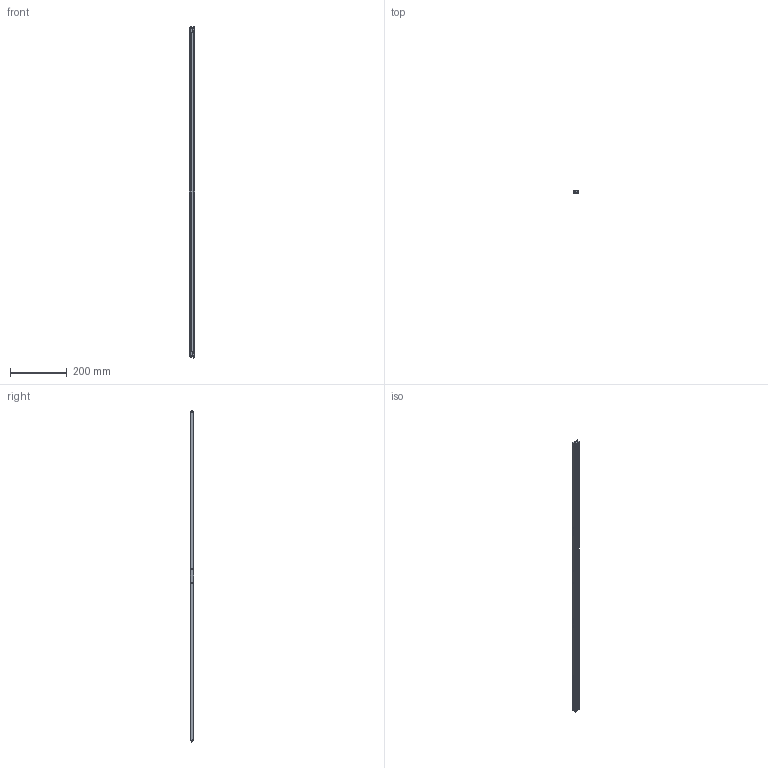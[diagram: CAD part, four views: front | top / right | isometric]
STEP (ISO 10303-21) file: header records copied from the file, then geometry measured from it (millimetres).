
FILE_DESCRIPTION (( 'STEP AP214' ), '1' );
FILE_NAME ('2000119 Kiton EDC mit 2 Sensoren 1161 mm.STEP', '2022-11-03T11:19:15', ( '' ), ( '' ), 'SwSTEP 2.0', 'SolidWorks 2021', '' );
FILE_SCHEMA (( 'AUTOMOTIVE_DESIGN' ));
Length unit declared in the file: millimetre
Products named in the file (11): PROFILO LAMPADA_L.500 IR INTERNI; TESTATA_TESTATA SX; TESTATA_TESTATA DX; SUPPORTO TESTATA_SUPPORTO TESTATA DX; SCHERMO KITON_L.470; VITE TS TORX 2x6; 2000119 Kiton EDC mit 2 Sensoren 1161 mm; sheet metal screws_din_Tapping screw DIN 7049-ST2.2x9.5-C-H-C; SENSORE PROG. PROXIMITY; STRIP REEL 180 LED METRO 5.25mm; SUPPORTO TESTATA_SUPPORTO TESTATA SX
Assembly tree (21 placements, depth 2):
  2000119 Kiton EDC mit 2 Sensoren 1161 mm
    PROFILO LAMPADA_L.500 IR INTERNI
    SCHERMO KITON_L.470
    TESTATA_TESTATA DX
    TESTATA_TESTATA SX
    SUPPORTO TESTATA_SUPPORTO TESTATA DX
    SUPPORTO TESTATA_SUPPORTO TESTATA SX
    SENSORE PROG. PROXIMITY  x2
    STRIP REEL 180 LED METRO 5.25mm  x7
    sheet metal screws_din_Tapping screw DIN 7049-ST2.2x9.5-C-H-C  x4
    VITE TS TORX 2x6  x2
Bounding box: 21.13 x 11.42 x 1174.26 mm (x, y, z)
Volume: 128397.3 mm3; surface area: 180011.6 mm2
Topology: 21 solids, 21 shells, 1722 faces, 4704 edges, 3114 vertices
Faces by surface type: plane 1204, cylinder 343, bspline 133, cone 22, sphere 12, torus 8
Entity records: 39890 total; most frequent: CARTESIAN_POINT 13847, ORIENTED_EDGE 5234, DIRECTION 4227, EDGE_CURVE 2617, VECTOR 1953, LINE 1953, VERTEX_POINT 1738, AXIS2_PLACEMENT_3D 1137
